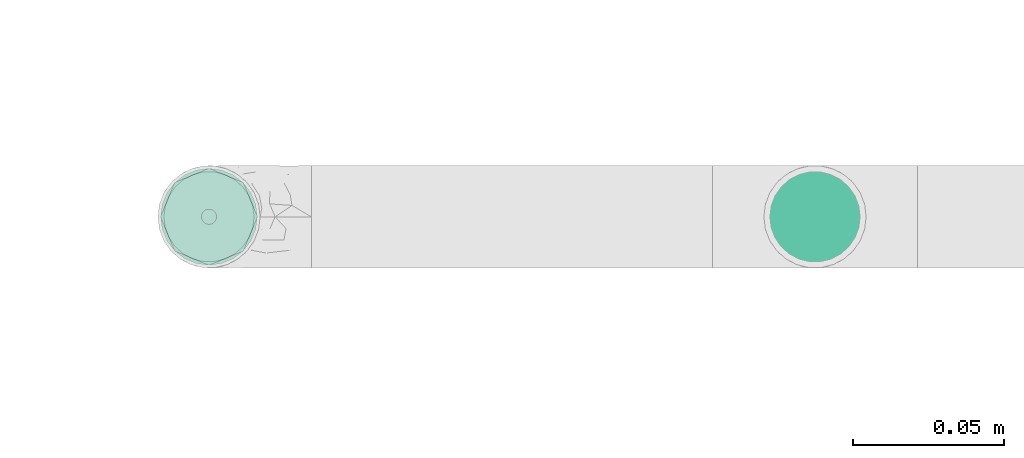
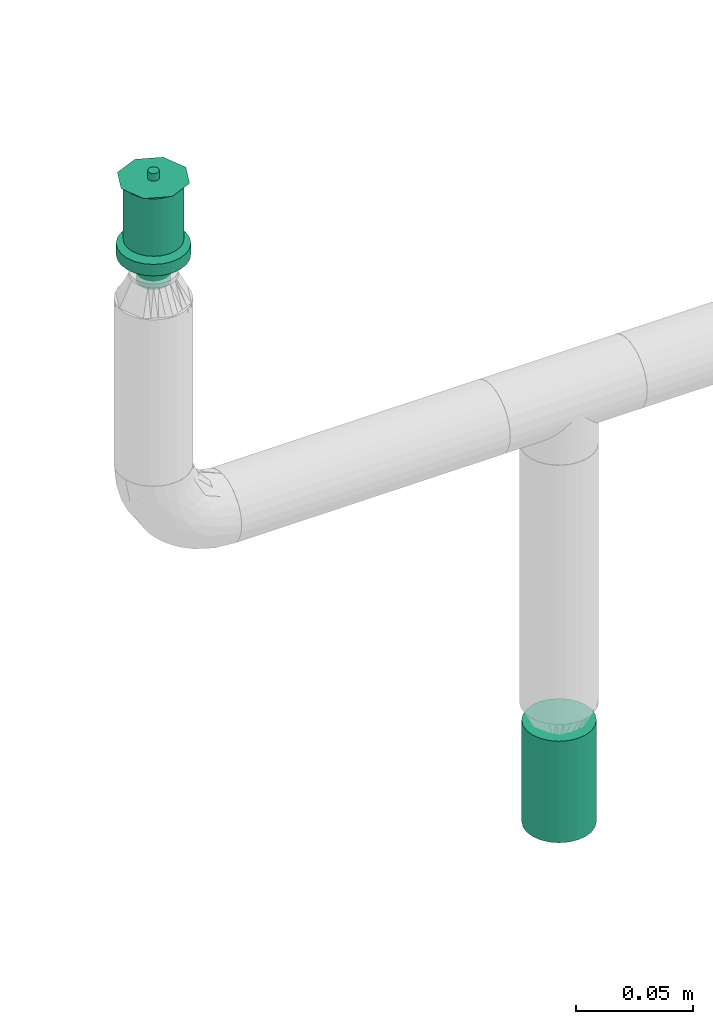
# One storey, part 78 of 157: 2 flow terminals.
"""IFC2X3 building model written with IfcOpenShell, lengths in millimetres."""

import ifcopenshell
import ifcopenshell.guid

model = None  # the IFC model being written
_history = None  # IfcOwnerHistory: only IFC2X3 demands one
_inside = {}  # id of a spatial element -> (the spatial element, [elements in it])
_under = {}  # id of a project, library or spatial element -> (it, [spatial elements below it])
_declared = {}  # id of a project -> (the project, [libraries it declares])
_typed = {}  # id of a type object -> (the type object, [elements of that type])
_made_of = {}  # id of a material, layer set ... -> (it, [elements and type objects made of it])


def new_model(schema):
    """Start an empty IFC model of exactly this schema.

    Asked for "IFC4X3", IfcOpenShell would pick the latest addendum, in which some entities
    have other attributes; the version numbers below select the first issue.
    IFC2X3 requires an IfcOwnerHistory on every rooted entity: one is made here for all.
    """
    global model, _history
    if schema == "IFC4X3":
        model = ifcopenshell.file(schema_version=(4, 3, 0, 0))
    else:
        model = ifcopenshell.file(schema=schema)
    _inside.clear()
    _under.clear()
    _declared.clear()
    _typed.clear()
    _made_of.clear()
    _history = None
    if model.schema == "IFC2X3":
        org = make("IfcOrganization", Name="unknown")
        user = make(
            "IfcPersonAndOrganization",
            ThePerson=make("IfcPerson", FamilyName="unknown"),
            TheOrganization=org,
        )
        app = make(
            "IfcApplication",
            ApplicationDeveloper=org,
            Version="unknown",
            ApplicationFullName="unknown",
            ApplicationIdentifier="unknown",
        )
        _history = make(
            "IfcOwnerHistory",
            OwningUser=user,
            OwningApplication=app,
            ChangeAction="ADDED",
            CreationDate=0,
        )
    return model


def make(cls, **values):
    """One entity of the class cls with the attributes given. An attribute that is None is left unset."""
    return model.create_entity(
        cls, **{name: value for name, value in values.items() if value is not None}
    )


def entity(cls, *values):
    """Any entity or typed value of the class cls, its attributes in the order of the schema. None: left unset."""
    e = model.create_entity(cls)
    for i, value in enumerate(values):
        if value is not None:
            e[i] = value
    return e


def rooted(cls, **values):
    """An entity with a GlobalId (a new one), such as an element, a storey or a relation."""
    return make(cls, GlobalId=ifcopenshell.guid.new(), OwnerHistory=_history, **values)


def si_unit(unit_type, name, prefix=None):
    """IfcSIUnit, for example si_unit("LENGTHUNIT", "METRE", prefix="MILLI")."""
    return make("IfcSIUnit", UnitType=unit_type, Prefix=prefix, Name=name)


def converted_unit(unit_type, name, factor, base, dimensions=None, offset=None):
    """IfcConversionBasedUnit, such as the inch: factor (a typed value) times the base unit."""
    return make(
        "IfcConversionBasedUnit"
        if offset is None
        else "IfcConversionBasedUnitWithOffset",
        ConversionOffset=offset,
        Dimensions=None
        if dimensions is None
        else entity("IfcDimensionalExponents", *dimensions),
        UnitType=unit_type,
        Name=name,
        ConversionFactor=make(
            "IfcMeasureWithUnit", ValueComponent=factor, UnitComponent=base
        ),
    )


def derived_unit(unit_type, elements):
    """IfcDerivedUnit: a product of units, each with its exponent."""
    return make(
        "IfcDerivedUnit",
        Elements=[
            make("IfcDerivedUnitElement", Unit=unit, Exponent=power)
            for unit, power in elements
        ],
        UnitType=unit_type,
    )


def assignment(units):
    """IfcUnitAssignment: the units of a project."""
    return None if units is None else make("IfcUnitAssignment", Units=units)


def point(xyz):
    """IfcCartesianPoint."""
    return None if xyz is None else make("IfcCartesianPoint", Coordinates=xyz)


def direction(xyz):
    """IfcDirection."""
    return None if xyz is None else make("IfcDirection", DirectionRatios=xyz)


def frame(location, z_axis=None, x_axis=None):
    """IfcAxis2Placement3D, a coordinate frame: its origin and axes. An axis left out is left unset."""
    return make(
        "IfcAxis2Placement3D",
        Location=point(location),
        Axis=direction(z_axis),
        RefDirection=direction(x_axis),
    )


def origin_with_axes():
    """The frame at (0, 0, 0) with the z axis (0, 0, 1) and the x axis (1, 0, 0) written out."""
    return frame((0.0, 0.0, 0.0), z_axis=(0.0, 0.0, 1.0), x_axis=(1.0, 0.0, 0.0))


def place(relative_to, where):
    """IfcLocalPlacement: puts the frame where relative to a parent placement (None: the world)."""
    return make(
        "IfcLocalPlacement", PlacementRelTo=relative_to, RelativePlacement=where
    )


def context(
    kind, dimensions, precision=None, world=None, true_north=None, identifier=None
):
    """IfcGeometricRepresentationContext, for example the 3D "Model" context."""
    return make(
        "IfcGeometricRepresentationContext",
        ContextIdentifier=identifier,
        ContextType=kind,
        CoordinateSpaceDimension=dimensions,
        Precision=precision,
        WorldCoordinateSystem=world,
        TrueNorth=true_north,
    )


def subcontext(parent, identifier, kind, view, scale=None):
    """IfcGeometricRepresentationSubContext, for example "Body" below "Model"."""
    return make(
        "IfcGeometricRepresentationSubContext",
        ContextIdentifier=identifier,
        ContextType=kind,
        ParentContext=parent,
        TargetScale=scale,
        TargetView=view,
    )


def project(units=None, contexts=None):
    """IfcProject with its units and contexts."""
    return rooted(
        "IfcProject",
        Name="project",
        RepresentationContexts=contexts,
        UnitsInContext=assignment(units),
    )


def spatial(cls, under=None, at=None, **own):
    """A site, building, storey or space (cls), placed at a placement, below another one or the project."""
    s = rooted(cls, ObjectPlacement=at, **own)
    if under is not None:
        _under.setdefault(under.id(), (under, []))[1].append(s)
    return s


def faces_of(points, faces, orient=None, outer=None):
    """IfcFace entities. A face is a list of loops; a loop is a list of indices into points, from 0.

    orient and outer hold one flag for each loop. By default every Orientation is true, the
    first loop of a face is its IfcFaceOuterBound and the others are IfcFaceBound.
    """
    made = []
    for i, loops in enumerate(faces):
        bounds = []
        for j, loop in enumerate(loops):
            is_outer = j == 0 if outer is None else outer[i][j]
            bounds.append(
                make(
                    "IfcFaceOuterBound" if is_outer else "IfcFaceBound",
                    Bound=make("IfcPolyLoop", Polygon=[points[k] for k in loop]),
                    Orientation=True if orient is None else orient[i][j],
                )
            )
        made.append(make("IfcFace", Bounds=bounds))
    return made


def open_shell(faces, orient=None, outer=None):
    """The faces of one IfcOpenShell. surface_model builds it on its shared points."""
    return ("IfcOpenShell", faces, orient, outer)


def surface_model(cls, points, shells):
    """IfcFaceBasedSurfaceModel or IfcShellBasedSurfaceModel (cls): surfaces that need not close."""
    shared = [point(p) for p in points]
    made = [make(c, CfsFaces=faces_of(shared, fs, o, b)) for c, fs, o, b in shells]
    if cls == "IfcFaceBasedSurfaceModel":
        return make(cls, FbsmFaces=made)
    return make(cls, SbsmBoundary=made)


def shape(context_of_items, identifier, shape_type, items):
    """IfcShapeRepresentation: the items that make up one representation, for example the "Body"."""
    return make(
        "IfcShapeRepresentation",
        ContextOfItems=context_of_items,
        RepresentationIdentifier=identifier,
        RepresentationType=shape_type,
        Items=items,
    )


def source(mapping_origin, context_of_items, identifier, shape_type, items):
    """IfcRepresentationMap: a shape defined once, which mapped items show again and again."""
    return make(
        "IfcRepresentationMap",
        MappingOrigin=mapping_origin,
        MappedRepresentation=shape(context_of_items, identifier, shape_type, items),
    )


def transform(
    local_origin,
    x_axis=None,
    y_axis=None,
    z_axis=None,
    scale=None,
    scale2=None,
    scale3=None,
    uniform=True,
):
    """IfcCartesianTransformationOperator3D, or its non-uniform kind. x_axis, y_axis, z_axis: its Axis1, 2, 3."""
    if uniform:
        return make(
            "IfcCartesianTransformationOperator3D",
            Axis1=direction(x_axis),
            Axis2=direction(y_axis),
            LocalOrigin=point(local_origin),
            Scale=scale,
            Axis3=direction(z_axis),
        )
    return make(
        "IfcCartesianTransformationOperator3DnonUniform",
        Axis1=direction(x_axis),
        Axis2=direction(y_axis),
        LocalOrigin=point(local_origin),
        Scale=scale,
        Axis3=direction(z_axis),
        Scale2=scale2,
        Scale3=scale3,
    )


def mapped(mapping_source, mapping_target):
    """IfcMappedItem: shows the shape of a source again, moved by a transform."""
    return make(
        "IfcMappedItem", MappingSource=mapping_source, MappingTarget=mapping_target
    )


def made_of(thing, what):
    """Note that an element or type object is made of a material, layer set ...; save() writes the relation."""
    if what is not None:
        _made_of.setdefault(what.id(), (what, []))[1].append(thing)
    return thing


def type_object(cls, material=None, **own):
    """A type object (cls), such as IfcWallType, which elements share."""
    return made_of(rooted(cls, **own), material)


def element(
    cls,
    number,
    at=None,
    inside=None,
    cuts=None,
    type_object=None,
    material=None,
    context=None,
    identifier="Body",
    shape_type=None,
    held_by="IfcProductDefinitionShape",
    body=None,
    shapes=None,
    **own,
):
    """One element of the class cls, such as IfcWall. Its Tag is "e" and its number.

    at: its placement. inside: the storey or other place that contains it. cuts: it is an
    opening in that element (IfcRelVoidsElement). A single representation is given by context,
    identifier, shape_type and body (its items); several are given by shapes. held_by: the class
    of the entity that holds the representations. save() writes the other relations.
    """
    e = rooted(cls, Tag="e%d" % number, ObjectPlacement=at, **own)
    if body is not None:
        shapes = [shape(context, identifier, shape_type, body)]
    if shapes is not None:
        e.Representation = make(held_by, Representations=shapes)
    if inside is not None:
        _inside.setdefault(inside.id(), (inside, []))[1].append(e)
    if cuts is not None:
        rooted(
            "IfcRelVoidsElement", RelatingBuildingElement=cuts, RelatedOpeningElement=e
        )
    if type_object is not None:
        _typed.setdefault(type_object.id(), (type_object, []))[1].append(e)
    return made_of(e, material)


def aggregate(whole, parts):
    """IfcRelAggregates: a whole, such as a stair, and the parts it consists of."""
    return rooted("IfcRelAggregates", RelatingObject=whole, RelatedObjects=parts)


def save(model, path):
    """Write the relations noted so far, then the file.

    IfcRelAggregates (storeys below a building ...), IfcRelContainedInSpatialStructure (elements
    in a storey), IfcRelDefinesByType, IfcRelAssociatesMaterial and IfcRelDeclares: one each for
    every whole, place, type object, material and project.
    """
    for whole, parts in _under.values():
        aggregate(whole, parts)
    for where, things in _inside.values():
        rooted(
            "IfcRelContainedInSpatialStructure",
            RelatedElements=things,
            RelatingStructure=where,
        )
    for kind, things in _typed.values():
        rooted("IfcRelDefinesByType", RelatedObjects=things, RelatingType=kind)
    for what, things in _made_of.values():
        rooted("IfcRelAssociatesMaterial", RelatedObjects=things, RelatingMaterial=what)
    for by, libraries in _declared.values():
        rooted("IfcRelDeclares", RelatingContext=by, RelatedDefinitions=libraries)
    model.write(path)


model = new_model("IFC2X3")

# Units and contexts
model_context = context("Model", 3, precision=0.01, world=frame((0.0, 4.29681676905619e-09, 0.0)), true_north=direction((4.01073788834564e-13, 1.0)))
plan_context = context("Plan", 3, precision=0.01, world=frame((0.0, 4.29681676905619e-09, 0.0)), true_north=direction((4.01073788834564e-13, 1.0)))
body_context = subcontext(model_context, "Body", "Model", "MODEL_VIEW")
ifc_project = project(units=[converted_unit("PLANEANGLEUNIT", "DEGREE", entity("IfcPositiveLengthMeasure", 0.0174532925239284), si_unit("PLANEANGLEUNIT", "RADIAN"), dimensions=[0, 0, 0, 0, 0, 0, 0]), si_unit("AREAUNIT", "SQUARE_METRE"), si_unit("LENGTHUNIT", "METRE", prefix="MILLI"), si_unit("MASSUNIT", "GRAM", prefix="KILO"), si_unit("POWERUNIT", "WATT"), si_unit("PRESSUREUNIT", "PASCAL"), si_unit("FORCEUNIT", "NEWTON", prefix="KILO"), si_unit("ELECTRICCURRENTUNIT", "AMPERE"), si_unit("THERMODYNAMICTEMPERATUREUNIT", "DEGREE_CELSIUS"), si_unit("TIMEUNIT", "SECOND"), si_unit("VOLUMEUNIT", "CUBIC_METRE"), derived_unit("LINEARVELOCITYUNIT", [(si_unit("LENGTHUNIT", "METRE"), 1), (si_unit("TIMEUNIT", "SECOND"), -1)]), derived_unit("VOLUMETRICFLOWRATEUNIT", [(si_unit("VOLUMEUNIT", "CUBIC_METRE"), 1), (si_unit("TIMEUNIT", "SECOND"), -1)]), derived_unit("THERMALTRANSMITTANCEUNIT", [(si_unit("POWERUNIT", "WATT"), 1), (si_unit("THERMODYNAMICTEMPERATUREUNIT", "KELVIN"), -1), (si_unit("AREAUNIT", "SQUARE_METRE"), -1)])], contexts=[model_context, plan_context])

# Site, building, storey
site_placement = place(None, frame((0.0, -4.29681676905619e-09, 0.0), z_axis=(0.0, 0.0, 1.0), x_axis=(1.0, 0.0, 0.0)))
site = spatial("IfcSite", under=ifc_project, at=site_placement, CompositionType="ELEMENT")
building_placement = place(site_placement, frame((0.0, 4.29681676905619e-09, 0.0), z_axis=(0.0, 0.0, 1.0), x_axis=(1.0, 0.0, 0.0)))
building = spatial("IfcBuilding", under=site, at=building_placement, Name="mc-building", CompositionType="ELEMENT")
storey_placement = place(building_placement, frame((0.0, 0.0, 204000.0), z_axis=(0.0, 0.0, 1.0), x_axis=(1.0, 0.0, 0.0)))
storey = spatial("IfcBuildingStorey", under=building, at=storey_placement, Name="Nivå D", CompositionType="ELEMENT", Elevation=204000.0)

# Flow terminals
fire_suppression_terminal_type_1 = type_object("IfcFireSuppressionTerminalType", Name="SP-15-K80-68DGR-STD-HIMLING", PredefinedType="NOTDEFINED")
shared_shape_1 = source(origin_with_axes(), body_context, "Body", "SurfaceModel", [
    surface_model("IfcShellBasedSurfaceModel", [(4.1411, -15.45481, 53.0), (8.0, -13.85641, 53.0), (11.31371, -11.31371, 53.0), (-8.0, -13.85641, 53.0), (15.45481, -4.1411, 53.0), (16.0, 0.0, 53.0), (13.85641, -8.0, 53.0), (0.0, -16.0, 53.0), (-4.1411, -15.45481, 53.0), (-13.85641, -8.0, 53.0), (-11.31371, -11.31371, 53.0), (-15.45481, -4.1411, 53.0), (15.45481, 4.1411, 53.0), (13.85641, 8.0, 53.0), (11.31371, 11.31371, 53.0), (-4.1411, 15.45481, 53.0), (8.0, 13.85641, 53.0), (4.1411, 15.45481, 53.0), (0.0, 16.0, 53.0), (-13.85641, 8.0, 53.0), (-15.45481, 4.1411, 53.0), (-16.0, 0.0, 53.0), (-11.31371, 11.31371, 53.0), (-8.0, 13.85641, 53.0), (0.0, 16.0, 0.0), (4.1411, 15.45481, 0.0), (8.0, 13.85641, 0.0), (-4.1411, 15.45481, 0.0), (11.31371, 11.31371, 0.0), (13.85641, 8.0, 0.0), (15.45481, 4.1411, 0.0), (-15.45481, -4.1411, 0.0), (-11.31371, 11.31371, 0.0), (-8.0, 13.85641, 0.0), (-13.85641, 8.0, 0.0), (-15.45481, 4.1411, 0.0), (-16.0, 0.0, 0.0), (4.1411, -15.45481, 0.0), (16.0, 0.0, 0.0), (15.45481, -4.1411, 0.0), (13.85641, -8.0, 0.0), (11.31371, -11.31371, 0.0), (8.0, -13.85641, 0.0), (-8.0, -13.85641, 0.0), (-13.85641, -8.0, 0.0), (-11.31371, -11.31371, 0.0), (0.0, -16.0, 0.0), (-4.1411, -15.45481, 0.0)], [open_shell([[[0, 1, 2]], [[3, 0, 2]], [[4, 5, 2]], [[4, 2, 6]], [[3, 2, 5]], [[7, 3, 8]], [[7, 0, 3]], [[3, 9, 10]], [[9, 3, 11]], [[5, 11, 3]], [[5, 12, 11]], [[12, 13, 14]], [[15, 12, 14]], [[16, 17, 18]], [[14, 16, 15]], [[18, 15, 16]], [[11, 19, 20]], [[21, 11, 20]], [[22, 15, 23]], [[15, 22, 19]], [[19, 11, 15]], [[11, 12, 15]], [[24, 25, 26]], [[27, 24, 26]], [[28, 29, 30]], [[27, 26, 28]], [[27, 28, 31]], [[27, 32, 33]], [[32, 27, 34]], [[34, 31, 35]], [[31, 34, 27]], [[35, 31, 36]], [[28, 30, 31]], [[37, 38, 39]], [[37, 39, 40]], [[41, 42, 37]], [[41, 37, 40]], [[38, 37, 43]], [[44, 43, 45]], [[43, 44, 31]], [[43, 46, 47]], [[43, 31, 38]], [[37, 46, 43]], [[38, 31, 30]], [[11, 31, 44]], [[45, 9, 44]], [[3, 43, 47]], [[45, 43, 10]], [[8, 47, 46]], [[31, 21, 36]], [[31, 11, 21]], [[44, 9, 11]], [[45, 10, 9]], [[3, 10, 43]], [[47, 8, 3]], [[46, 7, 8]], [[0, 37, 42]], [[41, 1, 42]], [[6, 40, 39]], [[41, 40, 2]], [[4, 39, 38]], [[37, 0, 7]], [[42, 1, 0]], [[41, 2, 1]], [[40, 6, 2]], [[4, 6, 39]], [[38, 5, 4]], [[37, 7, 46]], [[12, 38, 30]], [[13, 30, 29]], [[16, 26, 25]], [[17, 25, 24]], [[30, 13, 12]], [[12, 5, 38]], [[28, 14, 13]], [[28, 26, 14]], [[14, 26, 16]], [[25, 17, 16]], [[28, 13, 29]], [[24, 18, 17]], [[15, 27, 33]], [[32, 23, 33]], [[19, 34, 35]], [[32, 34, 22]], [[20, 35, 36]], [[27, 15, 18]], [[33, 23, 15]], [[32, 22, 23]], [[34, 19, 22]], [[20, 19, 35]], [[36, 21, 20]], [[27, 18, 24]]])]),
])
flow_terminal_1_placement = place(storey_placement, frame((518500.0, 416601.26652, 2400.0), z_axis=(0.0, 0.0, -1.0), x_axis=(1.0, 0.0, 0.0)))
element("IfcFlowTerminal", 1, at=flow_terminal_1_placement, inside=storey, type_object=fire_suppression_terminal_type_1, Name="SP-15-K80-68DGR-STD-HIMLING", context=body_context, shape_type="MappedRepresentation", body=[
    mapped(shared_shape_1, transform((0.0, 0.0, 0.0), scale=1.0)),
])
fire_suppression_terminal_type_2 = type_object("IfcFireSuppressionTerminalType", Name="68DGR-STD-STÅENDE", PredefinedType="NOTDEFINED")
shared_shape_2 = source(origin_with_axes(), body_context, "Body", "SurfaceModel", [
    surface_model("IfcShellBasedSurfaceModel", [(3.36465, -12.55704, 51.0), (6.5, -11.25833, 51.0), (9.19239, -9.19239, 51.0), (12.55704, -3.36465, 51.0), (-11.25833, -6.5, 51.0), (11.25833, -6.5, 51.0), (-13.0, 0.0, 51.0), (0.0, -13.0, 51.0), (-6.5, -11.25833, 51.0), (-3.36465, -12.55704, 51.0), (-9.19239, -9.19239, 51.0), (-12.55704, -3.36465, 51.0), (13.0, 0.0, 51.0), (12.55704, 3.36465, 51.0), (11.25833, 6.5, 51.0), (9.19239, 9.19239, 51.0), (6.5, 11.25833, 51.0), (3.36465, 12.55704, 51.0), (0.0, 13.0, 51.0), (-3.36465, 12.55704, 51.0), (-12.55704, 3.36465, 51.0), (-9.19239, 9.19239, 51.0), (-11.25833, 6.5, 51.0), (-6.5, 11.25833, 51.0), (0.0, 13.0, 21.14766), (3.36465, 12.55704, 21.14766), (6.5, 11.25833, 21.14766), (-3.36465, 12.55704, 21.14766), (9.19239, 9.19239, 21.14766), (11.25833, 6.5, 21.14766), (12.55704, 3.36465, 21.14766), (-12.55704, 3.36465, 21.14766), (-11.25833, -6.5, 21.14766), (-9.19239, 9.19239, 21.14766), (-6.5, 11.25833, 21.14766), (-11.25833, 6.5, 21.14766), (-13.0, 0.0, 21.14766), (12.55704, -3.36465, 21.14766), (9.19239, -9.19239, 21.14766), (11.25833, -6.5, 21.14766), (6.5, -11.25833, 21.14766), (3.36465, -12.55704, 21.14766), (-6.5, -11.25833, 21.14766), (-9.19239, -9.19239, 21.14766), (-12.55704, -3.36465, 21.14766), (0.0, -13.0, 21.14766), (-3.36465, -12.55704, 21.14766), (13.0, 0.0, 21.14766), (7.24444, -1.94114, 0.1), (1.94114, -7.24444, 0.1), (3.75, -6.49519, 0.1), (5.3033, -5.3033, 0.1), (-5.3033, -5.3033, 0.1), (6.49519, -3.75, 0.1), (5.3033, 5.3033, 0.1), (0.0, -7.5, 0.1), (-3.75, -6.49519, 0.1), (-1.94114, -7.24444, 0.1), (-7.24444, -1.94114, 0.1), (-6.49519, -3.75, 0.1), (-7.24444, 1.94114, 0.1), (7.5, 0.0, 0.1), (6.49519, 3.75, 0.1), (-6.49519, 3.75, 0.1), (1.94114, 7.24444, 0.1), (0.0, 7.5, 0.1), (3.75, 6.49519, 0.1), (-7.5, 0.0, 0.1), (-5.3033, 5.3033, 0.1), (-1.94114, 7.24444, 0.1), (-3.75, 6.49519, 0.1), (7.24444, 1.94114, 0.1), (1.94114, 7.24444, -0.1), (-6.49519, 3.75, -0.1), (0.0, 7.5, -0.1), (5.3033, 5.3033, -0.1), (3.75, 6.49519, -0.1), (6.49519, 3.75, -0.1), (7.24444, 1.94114, -0.1), (-1.94114, 7.24444, -0.1), (-5.3033, 5.3033, -0.1), (-3.75, 6.49519, -0.1), (-7.24444, 1.94114, -0.1), (-7.24444, -1.94114, -0.1), (-7.5, 0.0, -0.1), (7.5, 0.0, -0.1), (7.24444, -1.94114, -0.1), (-5.3033, -5.3033, -0.1), (1.94114, -7.24444, -0.1), (6.49519, -3.75, -0.1), (5.3033, -5.3033, -0.1), (3.75, -6.49519, -0.1), (-6.49519, -3.75, -0.1), (-3.75, -6.49519, -0.1), (0.0, -7.5, -0.1), (-1.94114, -7.24444, -0.1), (0.0, -2.5, 51.0), (-2.5, 0.0, 51.0), (0.0, 2.5, 51.0), (2.5, 0.0, 51.0), (0.0, -16.0, 53.0), (11.31371, -11.31371, 53.0), (-11.31371, -11.31371, 53.0), (-16.0, 0.0, 53.0), (16.0, 0.0, 53.0), (11.31371, 11.31371, 53.0), (0.0, 16.0, 53.0), (-11.31371, 11.31371, 53.0), (1.25, -2.16506, 57.0), (0.0, -2.5, 57.0), (0.64705, -2.41481, 57.0), (2.41481, -0.64705, 57.0), (1.76777, -1.76777, 57.0), (-2.41481, -0.64705, 57.0), (-2.5, 0.0, 57.0), (2.16506, -1.25, 57.0), (-1.25, -2.16506, 57.0), (-0.64705, -2.41481, 57.0), (-1.76777, -1.76777, 57.0), (-2.16506, -1.25, 57.0), (2.5, 0.0, 57.0), (2.41481, 0.64705, 57.0), (2.16506, 1.25, 57.0), (1.76777, 1.76777, 57.0), (0.64705, 2.41481, 57.0), (1.25, 2.16506, 57.0), (-1.76777, 1.76777, 57.0), (0.0, 2.5, 57.0), (-2.16506, 1.25, 57.0), (-2.41481, 0.64705, 57.0), (-0.64705, 2.41481, 57.0), (-1.25, 2.16506, 57.0), (1.25, 2.16506, 51.0), (1.76777, 1.76777, 51.0), (1.15, 1.99186, 51.0), (0.59528, 2.22163, 51.0), (0.64705, 2.41481, 51.0), (0.0, 2.3, 51.0), (1.62635, 1.62635, 51.0), (2.41481, 0.64705, 51.0), (2.3, 0.0, 51.0), (2.22163, 0.59528, 51.0), (2.16506, 1.25, 51.0), (1.99186, 1.15, 51.0), (-0.59528, 2.22163, 51.0), (-0.64705, 2.41481, 51.0), (-1.15, 1.99186, 51.0), (-1.76777, 1.76777, 51.0), (-1.25, 2.16506, 51.0), (-1.62635, 1.62635, 51.0), (-1.99186, 1.15, 51.0), (-2.16506, 1.25, 51.0), (-2.22163, 0.59528, 51.0), (-2.41481, 0.64705, 51.0), (-2.3, 0.0, 51.0), (2.41481, -0.64705, 51.0), (2.22163, -0.59528, 51.0), (1.99186, -1.15, 51.0), (2.16506, -1.25, 51.0), (1.62635, -1.62635, 51.0), (1.76777, -1.76777, 51.0), (1.25, -2.16506, 51.0), (1.15, -1.99186, 51.0), (0.59528, -2.22163, 51.0), (0.64705, -2.41481, 51.0), (0.0, -2.3, 51.0), (-2.16506, -1.25, 51.0), (-1.99186, -1.15, 51.0), (-1.76777, -1.76777, 51.0), (-1.62635, -1.62635, 51.0), (-2.41481, -0.64705, 51.0), (-2.22163, -0.59528, 51.0), (-0.59528, -2.22163, 51.0), (-0.64705, -2.41481, 51.0), (-1.15, -1.99186, 51.0), (-1.25, -2.16506, 51.0), (1.62635, -1.62635, 56.8), (1.15, -1.99186, 56.8), (0.59528, -2.22163, 56.8), (0.0, -2.3, 56.8), (2.22163, 0.59528, 56.8), (1.99186, -1.15, 56.8), (2.22163, -0.59528, 56.8), (-0.59528, -2.22163, 56.8), (-1.15, -1.99186, 56.8), (-1.62635, -1.62635, 56.8), (-1.99186, -1.15, 56.8), (-2.22163, -0.59528, 56.8), (-1.99186, 1.15, 56.8), (2.3, 0.0, 56.8), (1.62635, 1.62635, 56.8), (1.99186, 1.15, 56.8), (1.15, 1.99186, 56.8), (0.0, 2.3, 56.8), (0.59528, 2.22163, 56.8), (-2.22163, 0.59528, 56.8), (-2.3, 0.0, 56.8), (-1.15, 1.99186, 56.8), (-0.59528, 2.22163, 56.8), (-1.62635, 1.62635, 56.8), (4.1411, -15.45481, 19.0), (8.0, -13.85641, 19.0), (11.31371, -11.31371, 19.0), (-8.0, -13.85641, 19.0), (15.45481, -4.1411, 19.0), (16.0, 0.0, 19.0), (13.85641, -8.0, 19.0), (0.0, -16.0, 19.0), (-4.1411, -15.45481, 19.0), (-13.85641, -8.0, 19.0), (-11.31371, -11.31371, 19.0), (-15.45481, -4.1411, 19.0), (15.45481, 4.1411, 19.0), (13.85641, 8.0, 19.0), (11.31371, 11.31371, 19.0), (-4.1411, 15.45481, 19.0), (8.0, 13.85641, 19.0), (4.1411, 15.45481, 19.0), (0.0, 16.0, 19.0), (-13.85641, 8.0, 19.0), (-15.45481, 4.1411, 19.0), (-16.0, 0.0, 19.0), (-11.31371, 11.31371, 19.0), (-8.0, 13.85641, 19.0), (0.0, 16.0, 13.0), (4.1411, 15.45481, 13.0), (8.0, 13.85641, 13.0), (-4.1411, 15.45481, 13.0), (11.31371, 11.31371, 13.0), (13.85641, 8.0, 13.0), (15.45481, 4.1411, 13.0), (-15.45481, -4.1411, 13.0), (-11.31371, 11.31371, 13.0), (-8.0, 13.85641, 13.0), (-13.85641, 8.0, 13.0), (-15.45481, 4.1411, 13.0), (-16.0, 0.0, 13.0), (4.1411, -15.45481, 13.0), (16.0, 0.0, 13.0), (15.45481, -4.1411, 13.0), (13.85641, -8.0, 13.0), (11.31371, -11.31371, 13.0), (8.0, -13.85641, 13.0), (-8.0, -13.85641, 13.0), (-13.85641, -8.0, 13.0), (-11.31371, -11.31371, 13.0), (0.0, -16.0, 13.0), (-4.1411, -15.45481, 13.0), (7.24444, -1.94114, 13.0), (1.94114, -7.24444, 13.0), (3.75, -6.49519, 13.0), (5.3033, -5.3033, 13.0), (-5.3033, -5.3033, 13.0), (6.49519, -3.75, 13.0), (5.3033, 5.3033, 13.0), (0.0, -7.5, 13.0), (-3.75, -6.49519, 13.0), (-1.94114, -7.24444, 13.0), (-7.24444, -1.94114, 13.0), (-6.49519, -3.75, 13.0), (-7.24444, 1.94114, 13.0), (7.5, 0.0, 13.0), (6.49519, 3.75, 13.0), (-6.49519, 3.75, 13.0), (1.94114, 7.24444, 13.0), (0.0, 7.5, 13.0), (3.75, 6.49519, 13.0), (-7.5, 0.0, 13.0), (-5.3033, 5.3033, 13.0), (-1.94114, 7.24444, 13.0), (-3.75, 6.49519, 13.0), (7.24444, 1.94114, 13.0), (3.75, 6.49519, 0.0), (5.3033, 5.3033, 0.0), (3.65, 6.32199, 0.0), (1.88938, 7.05126, 0.0), (0.0, 7.3, 0.0), (1.94114, 7.24444, 0.0), (0.0, 7.5, 0.0), (5.16188, 5.16188, 0.0), (7.24444, 1.94114, 0.0), (7.3, 0.0, 0.0), (7.05126, 1.88938, 0.0), (7.5, 0.0, 0.0), (6.49519, 3.75, 0.0), (6.32199, 3.65, 0.0), (-1.88938, 7.05126, 0.0), (-1.94114, 7.24444, 0.0), (-3.65, 6.32199, 0.0), (-5.3033, 5.3033, 0.0), (-3.75, 6.49519, 0.0), (-5.16188, 5.16188, 0.0), (-6.32199, 3.65, 0.0), (-6.49519, 3.75, 0.0), (-7.05126, 1.88938, 0.0), (-7.24444, 1.94114, 0.0), (-7.3, 0.0, 0.0), (-7.5, 0.0, 0.0), (7.24444, -1.94114, 0.0), (7.05126, -1.88938, 0.0), (6.32199, -3.65, 0.0), (6.49519, -3.75, 0.0), (5.16188, -5.16188, 0.0), (5.3033, -5.3033, 0.0), (3.75, -6.49519, 0.0), (3.65, -6.32199, 0.0), (1.88938, -7.05126, 0.0), (1.94114, -7.24444, 0.0), (0.0, -7.3, 0.0), (0.0, -7.5, 0.0), (-6.49519, -3.75, 0.0), (-6.32199, -3.65, 0.0), (-5.3033, -5.3033, 0.0), (-5.16188, -5.16188, 0.0), (-7.24444, -1.94114, 0.0), (-7.05126, -1.88938, 0.0), (-1.88938, -7.05126, 0.0), (-1.94114, -7.24444, 0.0), (-3.65, -6.32199, 0.0), (-3.75, -6.49519, 0.0), (1.88938, -7.05126, 12.8), (0.0, -7.3, 12.8), (3.65, -6.32199, 12.8), (5.16188, -5.16188, 12.8), (6.32199, -3.65, 12.8), (7.05126, 1.88938, 12.8), (7.05126, -1.88938, 12.8), (-5.16188, -5.16188, 12.8), (-1.88938, -7.05126, 12.8), (-3.65, -6.32199, 12.8), (-6.32199, -3.65, 12.8), (-7.05126, -1.88938, 12.8), (0.0, 7.3, 12.8), (7.3, 0.0, 12.8), (6.32199, 3.65, 12.8), (5.16188, 5.16188, 12.8), (3.65, 6.32199, 12.8), (1.88938, 7.05126, 12.8), (-6.32199, 3.65, 12.8), (-7.05126, 1.88938, 12.8), (-7.3, 0.0, 12.8), (-3.65, 6.32199, 12.8), (-1.88938, 7.05126, 12.8), (-5.16188, 5.16188, 12.8)], [open_shell([[[0, 1, 2]], [[0, 2, 3]], [[0, 3, 4]], [[3, 2, 5]], [[6, 4, 3]], [[7, 8, 9]], [[7, 0, 8]], [[8, 4, 10]], [[0, 4, 8]], [[4, 6, 11]], [[6, 3, 12]], [[13, 14, 15]], [[6, 13, 15]], [[16, 17, 18]], [[15, 16, 19]], [[18, 19, 16]], [[20, 21, 22]], [[20, 6, 15]], [[21, 19, 23]], [[19, 21, 20]], [[15, 19, 20]], [[13, 6, 12]], [[24, 25, 26]], [[27, 24, 26]], [[28, 29, 30]], [[26, 28, 31]], [[28, 32, 31]], [[27, 33, 34]], [[33, 27, 31]], [[33, 31, 35]], [[27, 26, 31]], [[31, 32, 36]], [[32, 28, 30]], [[32, 30, 37]], [[38, 37, 39]], [[38, 40, 41]], [[38, 41, 37]], [[32, 37, 41]], [[32, 42, 43]], [[44, 36, 32]], [[42, 45, 46]], [[42, 32, 41]], [[45, 42, 41]], [[30, 47, 37]], [[4, 32, 43]], [[8, 42, 46]], [[43, 42, 10]], [[9, 46, 45]], [[36, 11, 6]], [[11, 36, 44]], [[11, 44, 4]], [[44, 32, 4]], [[43, 10, 4]], [[8, 10, 42]], [[46, 9, 8]], [[45, 7, 9]], [[0, 41, 40]], [[38, 1, 40]], [[5, 39, 37]], [[38, 39, 2]], [[3, 37, 47]], [[41, 0, 7]], [[40, 1, 0]], [[38, 2, 1]], [[39, 5, 2]], [[3, 5, 37]], [[47, 12, 3]], [[41, 7, 45]], [[30, 13, 47]], [[29, 14, 30]], [[25, 24, 17]], [[15, 29, 28]], [[30, 14, 13]], [[13, 12, 47]], [[16, 26, 17]], [[16, 15, 28]], [[26, 25, 17]], [[15, 14, 29]], [[28, 26, 16]], [[24, 18, 17]], [[19, 27, 34]], [[33, 23, 34]], [[22, 35, 31]], [[33, 35, 21]], [[20, 31, 36]], [[27, 19, 18]], [[34, 23, 19]], [[33, 21, 23]], [[35, 22, 21]], [[20, 22, 31]], [[36, 6, 20]], [[27, 18, 24]], [[48, 49, 50]], [[48, 50, 51]], [[49, 48, 52]], [[48, 51, 53]], [[54, 52, 48]], [[55, 56, 57]], [[56, 55, 52]], [[52, 58, 59]], [[52, 55, 49]], [[52, 60, 58]], [[54, 48, 61]], [[62, 54, 61]], [[54, 63, 52]], [[64, 65, 54]], [[64, 54, 66]], [[63, 54, 65]], [[63, 60, 52]], [[67, 58, 60]], [[68, 69, 70]], [[69, 68, 63]], [[69, 63, 65]], [[71, 62, 61]], [[72, 73, 74]], [[75, 72, 76]], [[75, 77, 78]], [[72, 75, 73]], [[78, 73, 75]], [[79, 80, 81]], [[80, 79, 73]], [[74, 73, 79]], [[78, 82, 73]], [[82, 83, 84]], [[82, 78, 85]], [[86, 87, 85]], [[88, 86, 89]], [[90, 91, 88]], [[90, 88, 89]], [[87, 86, 88]], [[83, 87, 92]], [[83, 85, 87]], [[93, 94, 95]], [[94, 93, 87]], [[88, 94, 87]], [[85, 83, 82]], [[83, 58, 84]], [[92, 59, 83]], [[56, 87, 93]], [[92, 87, 52]], [[57, 93, 95]], [[83, 59, 58]], [[58, 67, 84]], [[57, 56, 93]], [[52, 87, 56]], [[52, 59, 92]], [[55, 57, 95]], [[95, 94, 55]], [[88, 49, 94]], [[91, 50, 88]], [[53, 90, 89]], [[91, 90, 51]], [[48, 89, 86]], [[91, 51, 50]], [[50, 49, 88]], [[61, 48, 86]], [[53, 89, 48]], [[53, 51, 90]], [[85, 61, 86]], [[94, 49, 55]], [[78, 71, 85]], [[77, 62, 78]], [[66, 75, 76]], [[77, 75, 54]], [[64, 76, 72]], [[78, 62, 71]], [[71, 61, 85]], [[64, 66, 76]], [[54, 75, 66]], [[54, 62, 77]], [[65, 64, 72]], [[72, 74, 65]], [[79, 69, 74]], [[81, 70, 79]], [[63, 80, 73]], [[81, 80, 68]], [[60, 73, 82]], [[81, 68, 70]], [[70, 69, 79]], [[67, 60, 82]], [[63, 73, 60]], [[63, 68, 80]], [[84, 67, 82]], [[74, 69, 65]], [[96, 97, 98]], [[98, 99, 96]], [[100, 101, 102]], [[103, 102, 101]], [[101, 104, 103]], [[104, 105, 106]], [[107, 103, 106]], [[106, 103, 104]], [[99, 98, 105]], [[105, 104, 99]], [[98, 106, 105]], [[98, 107, 106]], [[107, 98, 97]], [[103, 107, 97]], [[97, 96, 102]], [[102, 103, 97]], [[96, 100, 102]], [[96, 101, 100]], [[101, 96, 99]], [[104, 101, 99]], [[108, 109, 110]], [[111, 108, 112]], [[113, 108, 114]], [[111, 112, 115]], [[108, 111, 114]], [[109, 116, 117]], [[116, 109, 118]], [[118, 113, 119]], [[118, 109, 108]], [[108, 113, 118]], [[111, 120, 114]], [[121, 122, 123]], [[114, 121, 123]], [[114, 123, 124]], [[124, 123, 125]], [[126, 124, 127]], [[124, 128, 129]], [[129, 114, 124]], [[126, 130, 131]], [[128, 124, 126]], [[130, 126, 127]], [[121, 114, 120]], [[132, 133, 134]], [[132, 134, 135]], [[136, 135, 137]], [[135, 136, 132]], [[136, 137, 98]], [[134, 133, 138]], [[139, 140, 141]], [[140, 139, 99]], [[139, 141, 142]], [[138, 142, 143]], [[142, 138, 133]], [[143, 142, 141]], [[98, 144, 145]], [[98, 137, 144]], [[145, 144, 146]], [[147, 148, 149]], [[146, 148, 145]], [[149, 148, 146]], [[150, 151, 147]], [[151, 150, 152]], [[150, 147, 149]], [[153, 152, 154]], [[152, 153, 151]], [[153, 154, 97]], [[99, 155, 156]], [[156, 155, 157]], [[157, 158, 159]], [[158, 157, 155]], [[159, 158, 160]], [[160, 161, 162]], [[162, 161, 163]], [[163, 164, 165]], [[164, 163, 161]], [[165, 164, 96]], [[162, 159, 160]], [[166, 167, 168]], [[168, 167, 169]], [[167, 166, 170]], [[97, 171, 170]], [[170, 171, 167]], [[97, 154, 171]], [[172, 96, 173]], [[172, 173, 174]], [[169, 175, 168]], [[175, 169, 174]], [[175, 174, 173]], [[165, 96, 172]], [[156, 140, 99]], [[170, 113, 97]], [[166, 119, 170]], [[116, 168, 175]], [[166, 168, 118]], [[117, 175, 173]], [[170, 119, 113]], [[113, 114, 97]], [[117, 116, 175]], [[118, 168, 116]], [[118, 119, 166]], [[109, 117, 173]], [[173, 96, 109]], [[164, 110, 96]], [[161, 108, 164]], [[115, 160, 158]], [[161, 160, 112]], [[111, 158, 155]], [[161, 112, 108]], [[108, 110, 164]], [[120, 111, 155]], [[115, 158, 111]], [[115, 112, 160]], [[99, 120, 155]], [[96, 110, 109]], [[139, 121, 99]], [[142, 122, 139]], [[125, 133, 132]], [[142, 133, 123]], [[124, 132, 136]], [[139, 122, 121]], [[121, 120, 99]], [[124, 125, 132]], [[123, 133, 125]], [[123, 122, 142]], [[127, 124, 136]], [[136, 98, 127]], [[145, 130, 98]], [[148, 131, 145]], [[128, 147, 151]], [[148, 147, 126]], [[129, 151, 153]], [[148, 126, 131]], [[131, 130, 145]], [[114, 129, 153]], [[128, 151, 129]], [[128, 126, 147]], [[97, 114, 153]], [[98, 130, 127]], [[176, 177, 178]], [[176, 178, 179]], [[180, 176, 179]], [[181, 176, 182]], [[180, 182, 176]], [[183, 184, 179]], [[185, 179, 184]], [[186, 187, 185]], [[185, 187, 188]], [[179, 185, 188]], [[189, 182, 180]], [[190, 191, 180]], [[192, 190, 180]], [[193, 194, 192]], [[180, 193, 192]], [[188, 193, 180]], [[195, 188, 196]], [[196, 188, 187]], [[197, 198, 199]], [[188, 199, 198]], [[188, 198, 193]], [[180, 179, 188]], [[154, 187, 171]], [[171, 186, 167]], [[174, 169, 184]], [[185, 169, 167]], [[172, 174, 183]], [[187, 186, 171]], [[154, 196, 187]], [[174, 184, 183]], [[184, 169, 185]], [[167, 186, 185]], [[172, 183, 179]], [[179, 165, 172]], [[165, 178, 163]], [[163, 177, 162]], [[157, 159, 181]], [[176, 159, 162]], [[156, 157, 182]], [[177, 176, 162]], [[163, 178, 177]], [[156, 182, 189]], [[182, 157, 181]], [[159, 176, 181]], [[156, 189, 140]], [[179, 178, 165]], [[140, 180, 141]], [[141, 191, 143]], [[134, 138, 192]], [[190, 138, 143]], [[135, 134, 194]], [[180, 191, 141]], [[140, 189, 180]], [[134, 192, 194]], [[192, 138, 190]], [[143, 191, 190]], [[135, 194, 193]], [[193, 137, 135]], [[137, 198, 144]], [[144, 197, 146]], [[150, 149, 188]], [[199, 149, 146]], [[152, 150, 195]], [[197, 199, 146]], [[144, 198, 197]], [[152, 195, 196]], [[195, 150, 188]], [[149, 199, 188]], [[152, 196, 154]], [[193, 198, 137]], [[200, 201, 202]], [[203, 200, 202]], [[204, 205, 202]], [[204, 202, 206]], [[203, 202, 205]], [[207, 203, 208]], [[207, 200, 203]], [[203, 209, 210]], [[209, 203, 211]], [[205, 211, 203]], [[205, 212, 211]], [[212, 213, 214]], [[215, 212, 214]], [[216, 217, 218]], [[214, 216, 215]], [[218, 215, 216]], [[211, 219, 220]], [[221, 211, 220]], [[222, 215, 223]], [[215, 222, 219]], [[219, 211, 215]], [[211, 212, 215]], [[224, 225, 226]], [[227, 224, 226]], [[228, 229, 230]], [[227, 226, 228]], [[227, 228, 231]], [[227, 232, 233]], [[232, 227, 234]], [[234, 231, 235]], [[231, 234, 227]], [[235, 231, 236]], [[228, 230, 231]], [[237, 238, 239]], [[237, 239, 240]], [[241, 242, 237]], [[241, 237, 240]], [[238, 237, 243]], [[244, 243, 245]], [[243, 244, 231]], [[243, 246, 247]], [[243, 231, 238]], [[237, 246, 243]], [[238, 231, 230]], [[231, 211, 236]], [[244, 209, 231]], [[203, 245, 243]], [[244, 245, 210]], [[208, 243, 247]], [[231, 209, 211]], [[211, 221, 236]], [[208, 203, 243]], [[210, 245, 203]], [[210, 209, 244]], [[207, 208, 247]], [[247, 246, 207]], [[237, 200, 246]], [[242, 201, 237]], [[206, 241, 240]], [[242, 241, 202]], [[204, 240, 239]], [[242, 202, 201]], [[201, 200, 237]], [[205, 204, 239]], [[206, 240, 204]], [[206, 202, 241]], [[238, 205, 239]], [[246, 200, 207]], [[230, 212, 238]], [[229, 213, 230]], [[216, 228, 226]], [[229, 228, 214]], [[217, 226, 225]], [[230, 213, 212]], [[212, 205, 238]], [[217, 216, 226]], [[214, 228, 216]], [[214, 213, 229]], [[218, 217, 225]], [[225, 224, 218]], [[227, 215, 224]], [[233, 223, 227]], [[219, 232, 234]], [[233, 232, 222]], [[220, 234, 235]], [[233, 222, 223]], [[223, 215, 227]], [[221, 220, 235]], [[219, 234, 220]], [[219, 222, 232]], [[236, 221, 235]], [[224, 215, 218]], [[248, 249, 250]], [[248, 250, 251]], [[249, 248, 252]], [[248, 251, 253]], [[254, 252, 248]], [[255, 256, 257]], [[256, 255, 252]], [[252, 258, 259]], [[252, 255, 249]], [[252, 260, 258]], [[254, 248, 261]], [[262, 254, 261]], [[254, 263, 252]], [[264, 265, 254]], [[264, 254, 266]], [[263, 254, 265]], [[263, 260, 252]], [[267, 258, 260]], [[268, 269, 270]], [[269, 268, 263]], [[269, 263, 265]], [[271, 262, 261]], [[272, 273, 274]], [[272, 274, 275]], [[276, 277, 275]], [[277, 276, 278]], [[275, 277, 272]], [[274, 273, 279]], [[280, 281, 282]], [[281, 280, 283]], [[280, 282, 284]], [[279, 284, 285]], [[284, 279, 273]], [[285, 284, 282]], [[278, 286, 287]], [[287, 286, 288]], [[289, 290, 291]], [[288, 290, 287]], [[288, 291, 290]], [[278, 276, 286]], [[292, 293, 289]], [[293, 292, 294]], [[292, 289, 291]], [[295, 294, 296]], [[294, 295, 293]], [[295, 296, 297]], [[283, 298, 299]], [[299, 298, 300]], [[300, 301, 302]], [[301, 300, 298]], [[302, 301, 303]], [[303, 304, 305]], [[305, 304, 306]], [[306, 307, 308]], [[307, 306, 304]], [[308, 307, 309]], [[305, 302, 303]], [[310, 311, 312]], [[312, 311, 313]], [[311, 310, 314]], [[297, 315, 314]], [[314, 315, 311]], [[297, 296, 315]], [[316, 309, 317]], [[316, 317, 318]], [[313, 319, 312]], [[313, 318, 319]], [[319, 318, 317]], [[308, 309, 316]], [[299, 281, 283]], [[314, 258, 297]], [[310, 259, 314]], [[256, 312, 319]], [[310, 312, 252]], [[257, 319, 317]], [[314, 259, 258]], [[258, 267, 297]], [[257, 256, 319]], [[252, 312, 256]], [[252, 259, 310]], [[255, 257, 317]], [[317, 309, 255]], [[307, 249, 309]], [[304, 250, 307]], [[253, 303, 301]], [[304, 303, 251]], [[248, 301, 298]], [[304, 251, 250]], [[250, 249, 307]], [[261, 248, 298]], [[253, 301, 248]], [[253, 251, 303]], [[283, 261, 298]], [[309, 249, 255]], [[280, 271, 283]], [[284, 262, 280]], [[266, 273, 272]], [[284, 273, 254]], [[264, 272, 277]], [[280, 262, 271]], [[271, 261, 283]], [[264, 266, 272]], [[254, 273, 266]], [[254, 262, 284]], [[265, 264, 277]], [[277, 278, 265]], [[287, 269, 278]], [[290, 270, 287]], [[263, 289, 293]], [[290, 289, 268]], [[260, 293, 295]], [[290, 268, 270]], [[270, 269, 287]], [[267, 260, 295]], [[263, 293, 260]], [[263, 268, 289]], [[297, 267, 295]], [[278, 269, 265]], [[320, 321, 322]], [[323, 322, 324]], [[325, 326, 322]], [[324, 322, 326]], [[322, 327, 325]], [[328, 329, 321]], [[327, 321, 329]], [[330, 331, 327]], [[322, 321, 327]], [[331, 332, 327]], [[326, 325, 333]], [[334, 325, 332]], [[335, 334, 336]], [[332, 337, 336]], [[334, 332, 336]], [[331, 338, 332]], [[339, 338, 340]], [[340, 338, 331]], [[341, 342, 343]], [[332, 338, 343]], [[332, 343, 342]], [[332, 325, 327]], [[296, 331, 315]], [[315, 330, 311]], [[318, 313, 329]], [[327, 313, 311]], [[316, 318, 328]], [[331, 330, 315]], [[296, 340, 331]], [[318, 329, 328]], [[329, 313, 327]], [[311, 330, 327]], [[316, 328, 321]], [[321, 308, 316]], [[308, 320, 306]], [[306, 322, 305]], [[300, 302, 324]], [[323, 302, 305]], [[299, 300, 326]], [[322, 323, 305]], [[306, 320, 322]], [[299, 326, 333]], [[326, 300, 324]], [[302, 323, 324]], [[299, 333, 281]], [[321, 320, 308]], [[281, 325, 282]], [[282, 334, 285]], [[274, 279, 336]], [[335, 279, 285]], [[275, 274, 337]], [[325, 334, 282]], [[281, 333, 325]], [[274, 336, 337]], [[336, 279, 335]], [[285, 334, 335]], [[275, 337, 332]], [[332, 276, 275]], [[276, 342, 286]], [[286, 341, 288]], [[292, 291, 338]], [[343, 291, 288]], [[294, 292, 339]], [[341, 343, 288]], [[286, 342, 341]], [[294, 339, 340]], [[339, 292, 338]], [[291, 343, 338]], [[294, 340, 296]], [[332, 342, 276]]])]),
])
flow_terminal_2_placement = place(storey_placement, frame((518299.77498, 416601.26648, 2700.0), z_axis=(0.0, 0.0, 1.0), x_axis=(1.0, 0.0, 0.0)))
element("IfcFlowTerminal", 2, at=flow_terminal_2_placement, inside=storey, type_object=fire_suppression_terminal_type_2, Name="68DGR-STD-STÅENDE", context=body_context, shape_type="MappedRepresentation", body=[
    mapped(shared_shape_2, transform((0.0, 0.0, 0.0), scale=1.0)),
])

save(model, "model.ifc")
